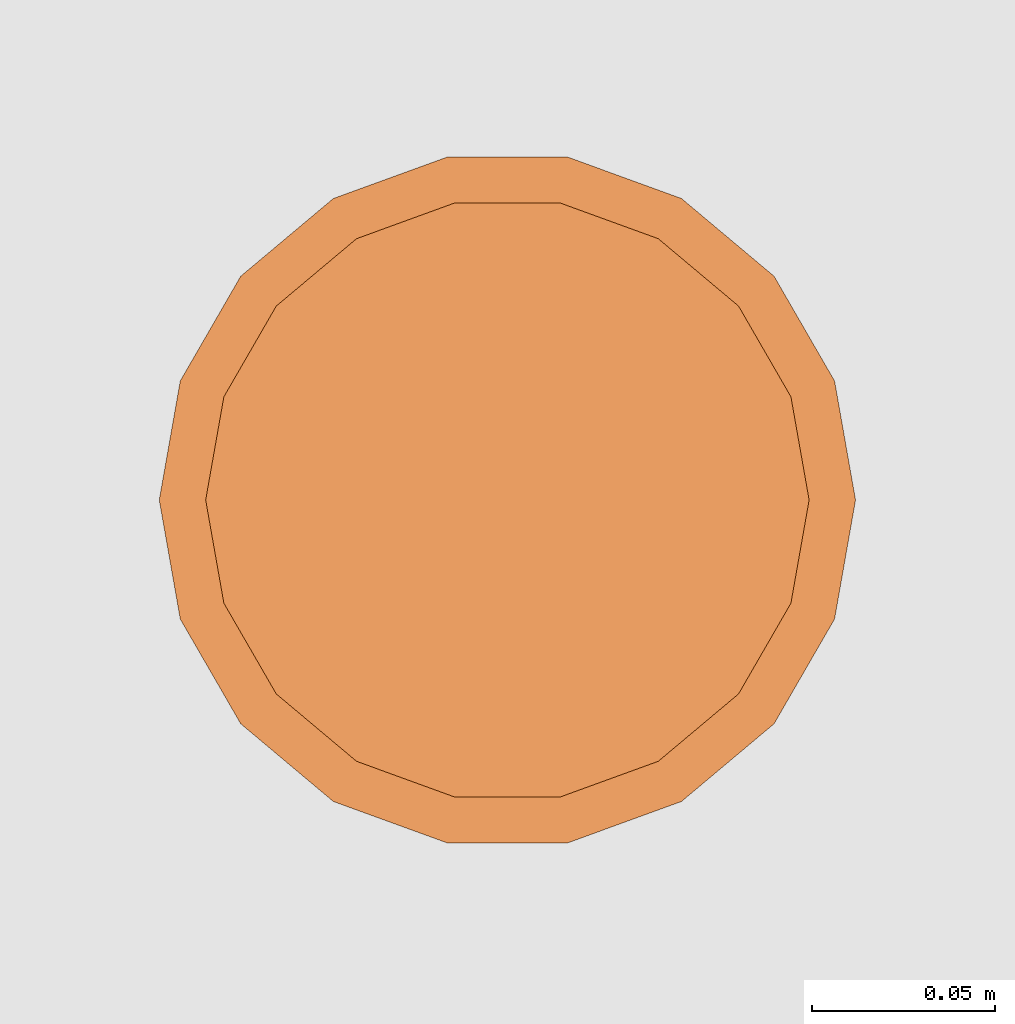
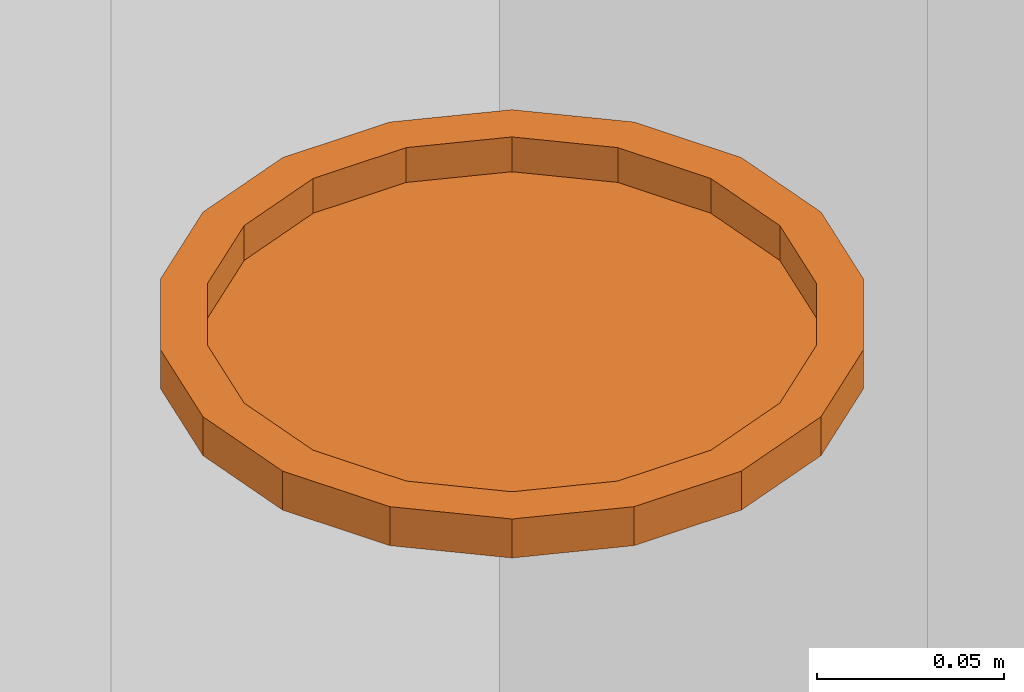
# One storey, part 29 of 48: 1 proxy.
"""IFC2X3 building model written with IfcOpenShell, lengths in inches."""

from ifc_helpers import new_model, entity, si_unit, converted_unit, derived_unit, money_unit, direction, frame, origin_with_axes, place, context, subcontext, project, spatial, open_shell, faceted_brep, surface_model, source, transform, mapped, type_object, element, save


model = new_model("IFC2X3")

# Units and contexts
model_context = context("Model", 3, precision=0.00039370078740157, world=origin_with_axes(), true_north=direction((0.0, 1.0)))
plan_context = context("Plan", 3, precision=0.00039370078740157, world=origin_with_axes(), true_north=direction((0.0, 1.0)))
body_context = subcontext(model_context, "Body", "Model", "MODEL_VIEW")
ifc_project = project(units=[converted_unit("LENGTHUNIT", "INCH", entity("IfcPositiveLengthMeasure", 0.0254), si_unit("LENGTHUNIT", "METRE"), dimensions=[1, 0, 0, 0, 0, 0, 0]), converted_unit("AREAUNIT", "SQUARE_FOOT", entity("IfcPositiveLengthMeasure", 0.09290304), si_unit("AREAUNIT", "SQUARE_METRE"), dimensions=[2, 0, 0, 0, 0, 0, 0]), si_unit("PLANEANGLEUNIT", "RADIAN"), si_unit("SOLIDANGLEUNIT", "STERADIAN"), money_unit("USD"), converted_unit("TIMEUNIT", "Year", entity("IfcTimeMeasure", 31557600.0), si_unit("TIMEUNIT", "SECOND"), dimensions=[0, 0, 1, 0, 0, 0, 0]), si_unit("MASSUNIT", "GRAM", prefix="KILO"), si_unit("THERMODYNAMICTEMPERATUREUNIT", "DEGREE_CELSIUS"), si_unit("LUMINOUSINTENSITYUNIT", "LUMEN"), si_unit("ENERGYUNIT", "JOULE", prefix="MEGA"), derived_unit("SPECIFICHEATCAPACITYUNIT", [(si_unit("ENERGYUNIT", "JOULE"), 1), (si_unit("MASSUNIT", "GRAM", prefix="KILO"), -1), (si_unit("THERMODYNAMICTEMPERATUREUNIT", "KELVIN"), -1)])], contexts=[model_context, plan_context])

# Site, building, storey
site_placement = place(None, origin_with_axes())
site = spatial("IfcSite", under=ifc_project, at=site_placement, Name="Site", CompositionType="ELEMENT")
building_placement = place(site_placement, origin_with_axes())
building = spatial("IfcBuilding", under=site, at=building_placement, Name="Building", CompositionType="ELEMENT")
storey_placement = place(building_placement, origin_with_axes())
storey = spatial("IfcBuildingStorey", under=building, at=storey_placement, Name="First Floor", CompositionType="ELEMENT", Elevation=0.0)

# Proxy
building_element_proxy_type = type_object("IfcBuildingElementProxyType", Name="Recessed Spot", PredefinedType="NOTDEFINED")
shared_shape = source(origin_with_axes(), body_context, "Body", "SurfaceModel", [
    faceted_brep([(3.749999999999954, 0.0, -0.4999999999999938), (3.523847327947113, 1.282575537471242, -0.4999999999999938), (3.523847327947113, 1.282575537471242, 0.0), (3.749999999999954, 0.0, 0.0), (3.523847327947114, -1.282575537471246, -0.4999999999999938), (2.872666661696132, -2.410453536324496, -0.4999999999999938), (1.874999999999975, -3.247595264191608, -0.4999999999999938), (0.6511806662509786, -3.693029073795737, -0.4999999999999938), (-0.6511806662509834, -3.693029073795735, -0.4999999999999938), (-1.87499999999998, -3.247595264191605, -0.4999999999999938), (-2.872666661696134, -2.410453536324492, -0.4999999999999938), (-3.523847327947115, -1.282575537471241, -0.4999999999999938), (-3.749999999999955, 0.0, -0.4999999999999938), (-3.523847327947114, 1.282575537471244, -0.4999999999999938), (-2.872666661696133, 2.410453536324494, -0.4999999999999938), (-1.874999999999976, 3.247595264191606, -0.4999999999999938), (-0.6511806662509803, 3.693029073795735, -0.4999999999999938), (0.6511806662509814, 3.693029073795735, -0.4999999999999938), (1.874999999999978, 3.247595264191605, -0.4999999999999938), (2.872666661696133, 2.410453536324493, -0.4999999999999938), (3.24999999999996, 0.0, -0.4999999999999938), (3.054001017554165, 1.11156546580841, -0.4999999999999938), (2.489644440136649, 2.089059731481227, -0.4999999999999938), (1.62499999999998, 2.814582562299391, -0.4999999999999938), (0.5643565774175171, 3.200625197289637, -0.4999999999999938), (-0.5643565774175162, 3.200625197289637, -0.4999999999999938), (-1.62499999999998, 2.814582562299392, -0.4999999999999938), (-2.489644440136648, 2.089059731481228, -0.4999999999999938), (-3.054001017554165, 1.111565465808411, -0.4999999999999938), (-3.24999999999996, 0.0, -0.4999999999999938), (-3.054001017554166, -1.111565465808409, -0.4999999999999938), (-2.48964444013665, -2.089059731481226, -0.4999999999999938), (-1.624999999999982, -2.814582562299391, -0.4999999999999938), (-0.5643565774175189, -3.200625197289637, -0.4999999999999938), (0.5643565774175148, -3.200625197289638, -0.4999999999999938), (1.624999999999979, -2.814582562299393, -0.4999999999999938), (2.489644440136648, -2.08905973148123, -0.4999999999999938), (3.054001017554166, -1.111565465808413, -0.4999999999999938), (2.872666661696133, 2.410453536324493, 0.0), (1.874999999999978, 3.247595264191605, 0.0), (0.6511806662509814, 3.693029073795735, 0.0), (-0.6511806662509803, 3.693029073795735, 0.0), (-1.874999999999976, 3.247595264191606, 0.0), (-2.872666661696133, 2.410453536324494, 0.0), (-3.523847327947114, 1.282575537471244, 0.0), (-3.749999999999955, 0.0, 0.0), (-3.523847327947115, -1.282575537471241, 0.0), (-2.872666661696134, -2.410453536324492, 0.0), (-1.87499999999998, -3.247595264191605, 0.0), (-0.6511806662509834, -3.693029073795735, 0.0), (0.6511806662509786, -3.693029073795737, 0.0), (1.874999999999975, -3.247595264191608, 0.0), (2.872666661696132, -2.410453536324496, 0.0), (3.523847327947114, -1.282575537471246, 0.0), (3.24999999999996, 0.0, 0.0), (3.054001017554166, -1.111565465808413, 0.0), (2.489644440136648, -2.08905973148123, 0.0), (1.624999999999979, -2.814582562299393, 0.0), (0.5643565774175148, -3.200625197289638, 0.0), (-0.5643565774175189, -3.200625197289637, 0.0), (-1.624999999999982, -2.814582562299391, 0.0), (-2.48964444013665, -2.089059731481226, 0.0), (-3.054001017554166, -1.111565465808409, 0.0), (-3.24999999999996, 0.0, 0.0), (-3.054001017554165, 1.111565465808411, 0.0), (-2.489644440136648, 2.089059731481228, 0.0), (-1.62499999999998, 2.814582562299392, 0.0), (-0.5643565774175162, 3.200625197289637, 0.0), (0.5643565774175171, 3.200625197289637, 0.0), (1.62499999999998, 2.814582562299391, 0.0), (2.489644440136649, 2.089059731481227, 0.0), (3.054001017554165, 1.11156546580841, 0.0)], [[[0, 1, 2, 3]], [[0, 4, 5, 6, 7, 8, 9, 10, 11, 12, 13, 14, 15, 16, 17, 18, 19, 1], [20, 21, 22, 23, 24, 25, 26, 27, 28, 29, 30, 31, 32, 33, 34, 35, 36, 37]], [[1, 19, 38, 2]], [[3, 2, 38, 39, 40, 41, 42, 43, 44, 45, 46, 47, 48, 49, 50, 51, 52, 53], [54, 55, 56, 57, 58, 59, 60, 61, 62, 63, 64, 65, 66, 67, 68, 69, 70, 71]], [[4, 0, 3, 53]], [[5, 4, 53, 52]], [[6, 5, 52, 51]], [[7, 6, 51, 50]], [[8, 7, 50, 49]], [[9, 8, 49, 48]], [[10, 9, 48, 47]], [[11, 10, 47, 46]], [[12, 11, 46, 45]], [[13, 12, 45, 44]], [[14, 13, 44, 43]], [[15, 14, 43, 42]], [[16, 15, 42, 41]], [[17, 16, 41, 40]], [[18, 17, 40, 39]], [[19, 18, 39, 38]], [[21, 20, 54, 71]], [[22, 21, 71, 70]], [[23, 22, 70, 69]], [[24, 23, 69, 68]], [[25, 24, 68, 67]], [[26, 25, 67, 66]], [[27, 26, 66, 65]], [[28, 27, 65, 64]], [[29, 28, 64, 63]], [[30, 29, 63, 62]], [[31, 30, 62, 61]], [[32, 31, 61, 60]], [[33, 32, 60, 59]], [[34, 33, 59, 58]], [[35, 34, 58, 57]], [[36, 35, 57, 56]], [[37, 36, 56, 55]], [[20, 37, 55, 54]]]),
    surface_model("IfcShellBasedSurfaceModel", [(3.24999999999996, 0.0, -0.4460629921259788), (3.054001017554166, -1.111565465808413, -0.4460629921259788), (2.489644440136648, -2.08905973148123, -0.4460629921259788), (1.624999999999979, -2.814582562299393, -0.4460629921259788), (0.5643565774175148, -3.200625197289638, -0.4460629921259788), (-0.5643565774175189, -3.200625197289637, -0.4460629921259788), (-1.624999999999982, -2.814582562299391, -0.4460629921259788), (-2.48964444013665, -2.089059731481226, -0.4460629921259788), (-3.054001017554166, -1.111565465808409, -0.4460629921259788), (-3.24999999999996, 0.0, -0.4460629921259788), (-3.054001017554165, 1.111565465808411, -0.4460629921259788), (-2.489644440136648, 2.089059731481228, -0.4460629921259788), (-1.62499999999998, 2.814582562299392, -0.4460629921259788), (-0.5643565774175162, 3.200625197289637, -0.4460629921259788), (0.5643565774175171, 3.200625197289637, -0.4460629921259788), (1.62499999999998, 2.814582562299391, -0.4460629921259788), (2.489644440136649, 2.089059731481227, -0.4460629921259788), (3.054001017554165, 1.11156546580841, -0.4460629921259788)], [open_shell([[[0, 1, 2, 3, 4, 5, 6, 7, 8, 9, 10, 11, 12, 13, 14, 15, 16, 17]]])]),
])
proxy_placement = place(storey_placement, frame((-57.24999999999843, 329.4999999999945, 100.9999999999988), z_axis=(0.0, 0.0, 1.0), x_axis=(1.0, 0.0, 0.0)))
element("IfcBuildingElementProxy", 1, at=proxy_placement, inside=storey, type_object=building_element_proxy_type, Name="L-03", context=body_context, shape_type="MappedRepresentation", body=[
    mapped(shared_shape, transform((0.0, 0.0, 0.0))),
])

save(model, "model.ifc")
